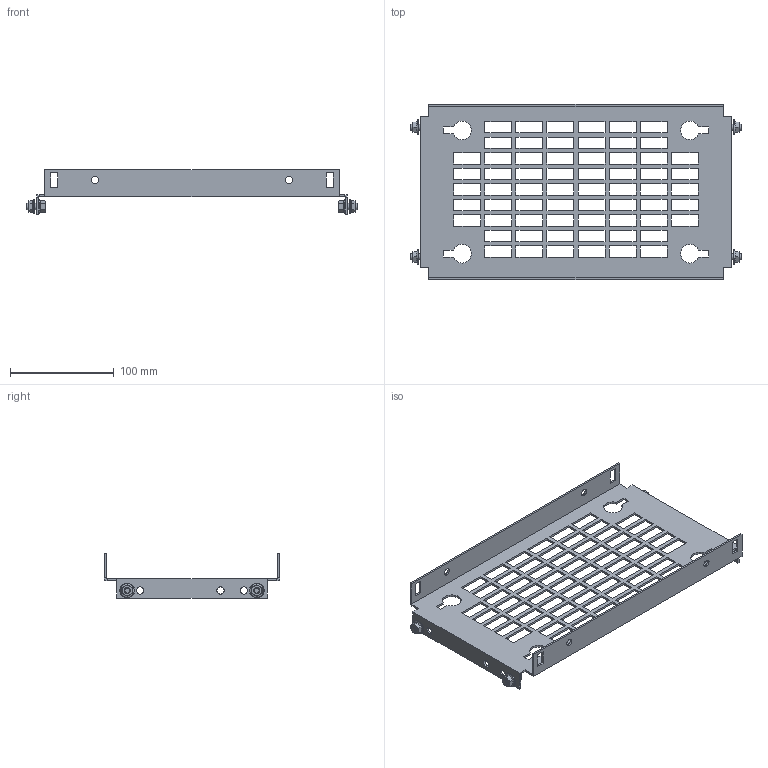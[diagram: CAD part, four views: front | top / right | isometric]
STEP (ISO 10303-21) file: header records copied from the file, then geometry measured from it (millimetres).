
FILE_DESCRIPTION(('Open CASCADE Model'),'2;1');
FILE_NAME('Open CASCADE Shape Model','2025-02-19T16:48:04',('Author'),( 'Open CASCADE'),'Open CASCADE STEP processor 7.8','Open CASCADE 7.8' ,'Unknown');
FILE_SCHEMA(('AUTOMOTIVE_DESIGN { 1 0 10303 214 1 1 1 1 }'));
Length unit declared in the file: millimetre
Products named in the file (4): Compound1; Solid1; Solid2; Solid3
Assembly tree (9 placements, depth 2):
  Compound1
    Solid1
    Solid2  x4
    Solid3  x4
Bounding box: 320 x 169 x 43 mm (x, y, z)
Volume: 102692.3 mm3; surface area: 115095.8 mm2
Topology: 9 solids, 9 shells, 548 faces, 1473 edges, 947 vertices
Faces by surface type: plane 390, cone 68, bspline 48, cylinder 30, torus 12
Full cylindrical faces by diameter (mm): 5 x4, 6 x8, 7 x14
Entity records: 13494 total; most frequent: CARTESIAN_POINT 2879, ORIENTED_EDGE 2268, DIRECTION 1902, EDGE_CURVE 1134, LINE 976, VECTOR 976, VERTEX_POINT 749, FACE_BOUND 567
